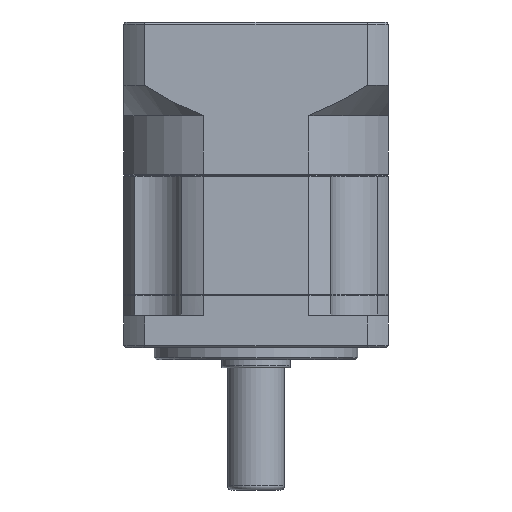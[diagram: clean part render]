
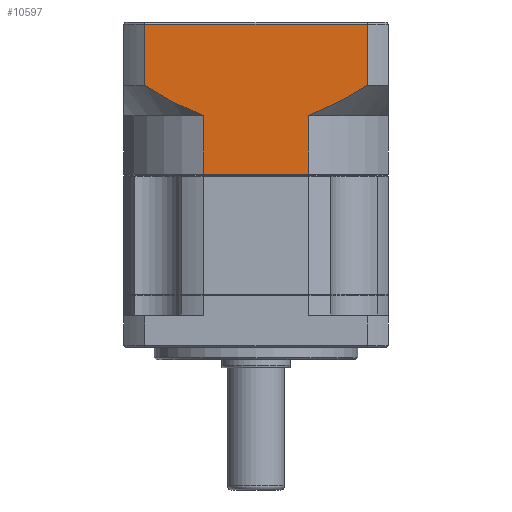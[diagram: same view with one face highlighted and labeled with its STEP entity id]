
A CAD part, front view. The second image highlights one B-rep face of the part: STEP entity #10597.
In plain terms, the highlighted planar face has unit normal (0, -1, 0).
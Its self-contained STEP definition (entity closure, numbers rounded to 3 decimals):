
#3012 = VERTEX_POINT ( 'NONE', #92596 ) ;
#4538 = DIRECTION ( 'NONE',  ( 0., 0., 1. ) ) ;
#5639 = CARTESIAN_POINT ( 'NONE',  ( 17.174, -27.975, 60.803 ) ) ;
#9618 = CARTESIAN_POINT ( 'NONE',  ( 2.778, -27.975, 83.303 ) ) ;
#10597 = ADVANCED_FACE ( 'NONE', ( #15213 ), #11373, .F. ) ;
#11373 = PLANE ( 'NONE',  #95054 ) ;
#11422 = CARTESIAN_POINT ( 'NONE',  ( 2.778, -27.975, 68.303 ) ) ;
#11454 = CARTESIAN_POINT ( 'NONE',  ( 5.047, -27.975, 66.841 ) ) ;
#11532 = CARTESIAN_POINT ( 'NONE',  ( 7.362, -27.975, 65.453 ) ) ;
#11548 = CARTESIAN_POINT ( 'NONE',  ( 10.943, -27.975, 63.548 ) ) ;
#11684 = CARTESIAN_POINT ( 'NONE',  ( 12.155, -27.975, 62.943 ) ) ;
#11821 = CARTESIAN_POINT ( 'NONE',  ( 14.008, -27.975, 62.093 ) ) ;
#11901 = CARTESIAN_POINT ( 'NONE',  ( 14.632, -27.975, 61.82 ) ) ;
#11917 = CARTESIAN_POINT ( 'NONE',  ( 15.893, -27.975, 61.294 ) ) ;
#12063 = CARTESIAN_POINT ( 'NONE',  ( 17.174, -27.975, 46.392 ) ) ;
#12193 = CARTESIAN_POINT ( 'NONE',  ( 62.664, -27.975, 83.803 ) ) ;
#12280 = CARTESIAN_POINT ( 'NONE',  ( 17.174, -27.975, 60.803 ) ) ;
#12308 = DIRECTION ( 'NONE',  ( 0., 1., 0. ) ) ;
#12326 = DIRECTION ( 'NONE',  ( -1., 0., 0. ) ) ;
#12531 = CARTESIAN_POINT ( 'NONE',  ( 16.531, -27.975, 61.042 ) ) ;
#13457 = VERTEX_POINT ( 'NONE', #12063 ) ;
#13956 = CARTESIAN_POINT ( 'NONE',  ( 52.925, -27.975, 65.469 ) ) ;
#14516 = VECTOR ( 'NONE', #80883, 1000. ) ;
#15213 = FACE_OUTER_BOUND ( 'NONE', #63129, .T. ) ;
#15913 = CARTESIAN_POINT ( 'NONE',  ( 43.155, -27.975, 60.803 ) ) ;
#17776 = CARTESIAN_POINT ( 'NONE',  ( 2.778, -27.975, 68.303 ) ) ;
#19557 = ORIENTED_EDGE ( 'NONE', *, *, #27962, .F. ) ;
#19962 = ORIENTED_EDGE ( 'NONE', *, *, #28106, .T. ) ;
#21765 = ORIENTED_EDGE ( 'NONE', *, *, #28261, .F. ) ;
#25161 = ORIENTED_EDGE ( 'NONE', *, *, #29175, .F. ) ;
#25505 = ORIENTED_EDGE ( 'NONE', *, *, #29344, .F. ) ;
#26462 = VERTEX_POINT ( 'NONE', #9618 ) ;
#27214 = ORIENTED_EDGE ( 'NONE', *, *, #30263, .T. ) ;
#27413 = ORIENTED_EDGE ( 'NONE', *, *, #30281, .F. ) ;
#27962 = EDGE_CURVE ( 'NONE', #106113, #3012, #68244, .T. ) ;
#28106 = EDGE_CURVE ( 'NONE', #106113, #26462, #53827, .T. ) ;
#28261 = EDGE_CURVE ( 'NONE', #29100, #26462, #33163, .T. ) ;
#29100 = VERTEX_POINT ( 'NONE', #17776 ) ;
#29132 = ORIENTED_EDGE ( 'NONE', *, *, #30406, .F. ) ;
#29175 = EDGE_CURVE ( 'NONE', #105098, #29100, #105166, .T. ) ;
#29344 = EDGE_CURVE ( 'NONE', #13457, #105098, #94607, .T. ) ;
#30263 = EDGE_CURVE ( 'NONE', #13457, #56198, #101736, .T. ) ;
#30281 = EDGE_CURVE ( 'NONE', #31534, #56198, #58522, .T. ) ;
#30406 = EDGE_CURVE ( 'NONE', #3012, #31534, #65236, .T. ) ;
#30596 = VECTOR ( 'NONE', #61048, 1000. ) ;
#31534 = VERTEX_POINT ( 'NONE', #15913 ) ;
#33163 = LINE ( 'NONE', #60320, #30596 ) ;
#36483 = VECTOR ( 'NONE', #81014, 1000. ) ;
#37693 = CARTESIAN_POINT ( 'NONE',  ( 17.174, -27.975, 60.803 ) ) ;
#46945 = CARTESIAN_POINT ( 'NONE',  ( 62.664, -27.975, 46.392 ) ) ;
#53827 = LINE ( 'NONE', #68185, #97329 ) ;
#56198 = VERTEX_POINT ( 'NONE', #100893 ) ;
#58522 = LINE ( 'NONE', #79495, #14516 ) ;
#60320 = CARTESIAN_POINT ( 'NONE',  ( 2.778, -27.975, 65.803 ) ) ;
#61048 = DIRECTION ( 'NONE',  ( 0., 0., 1. ) ) ;
#63129 = EDGE_LOOP ( 'NONE', ( #19557, #19962, #21765, #25161, #25505, #27214, #27413, #29132 ) ) ;
#65236 = B_SPLINE_CURVE_WITH_KNOTS ( 'NONE', 3,
 ( #76978, #98613, #76408, #13956, #76297, #76286, #76171, #76059 ),
 .UNSPECIFIED., .F., .F.,
 ( 4, 2, 2, 4 ),
 ( 0.059, 0.063, 0.067, 0.075 ),
 .UNSPECIFIED. ) ;
#68185 = CARTESIAN_POINT ( 'NONE',  ( 2.778, -27.975, 83.303 ) ) ;
#68244 = LINE ( 'NONE', #75959, #106083 ) ;
#69135 = DIRECTION ( 'NONE',  ( -1., 0., 0. ) ) ;
#72996 = VECTOR ( 'NONE', #4538, 1000. ) ;
#75959 = CARTESIAN_POINT ( 'NONE',  ( 57.55, -27.975, 65.803 ) ) ;
#76059 = CARTESIAN_POINT ( 'NONE',  ( 43.155, -27.975, 60.803 ) ) ;
#76171 = CARTESIAN_POINT ( 'NONE',  ( 45.694, -27.975, 61.746 ) ) ;
#76183 = DIRECTION ( 'NONE',  ( 0., 0., -1. ) ) ;
#76286 = CARTESIAN_POINT ( 'NONE',  ( 48.145, -27.975, 62.89 ) ) ;
#76297 = CARTESIAN_POINT ( 'NONE',  ( 51.739, -27.975, 64.799 ) ) ;
#76408 = CARTESIAN_POINT ( 'NONE',  ( 55.26, -27.975, 66.854 ) ) ;
#76978 = CARTESIAN_POINT ( 'NONE',  ( 57.55, -27.975, 68.303 ) ) ;
#79495 = CARTESIAN_POINT ( 'NONE',  ( 43.155, -27.975, 60.803 ) ) ;
#80883 = DIRECTION ( 'NONE',  ( 0., 0., -1. ) ) ;
#81014 = DIRECTION ( 'NONE',  ( 1., 0., 0. ) ) ;
#81837 = CARTESIAN_POINT ( 'NONE',  ( 57.55, -27.975, 83.303 ) ) ;
#92596 = CARTESIAN_POINT ( 'NONE',  ( 57.55, -27.975, 68.303 ) ) ;
#94607 = LINE ( 'NONE', #5639, #72996 ) ;
#95054 = AXIS2_PLACEMENT_3D ( 'NONE', #12193, #12308, #12326 ) ;
#97329 = VECTOR ( 'NONE', #69135, 1000. ) ;
#98613 = CARTESIAN_POINT ( 'NONE',  ( 56.412, -27.975, 67.57 ) ) ;
#100893 = CARTESIAN_POINT ( 'NONE',  ( 43.155, -27.975, 46.392 ) ) ;
#101736 = LINE ( 'NONE', #46945, #36483 ) ;
#105098 = VERTEX_POINT ( 'NONE', #37693 ) ;
#105166 = B_SPLINE_CURVE_WITH_KNOTS ( 'NONE', 3,
 ( #12280, #12531, #11917, #11901, #11821, #11684, #11548, #11532, #11454, #11422 ),
 .UNSPECIFIED., .F., .F.,
 ( 4, 2, 2, 2, 4 ),
 ( 0.101, 0.104, 0.106, 0.11, 0.118 ),
 .UNSPECIFIED. ) ;
#106083 = VECTOR ( 'NONE', #76183, 1000. ) ;
#106113 = VERTEX_POINT ( 'NONE', #81837 ) ;
